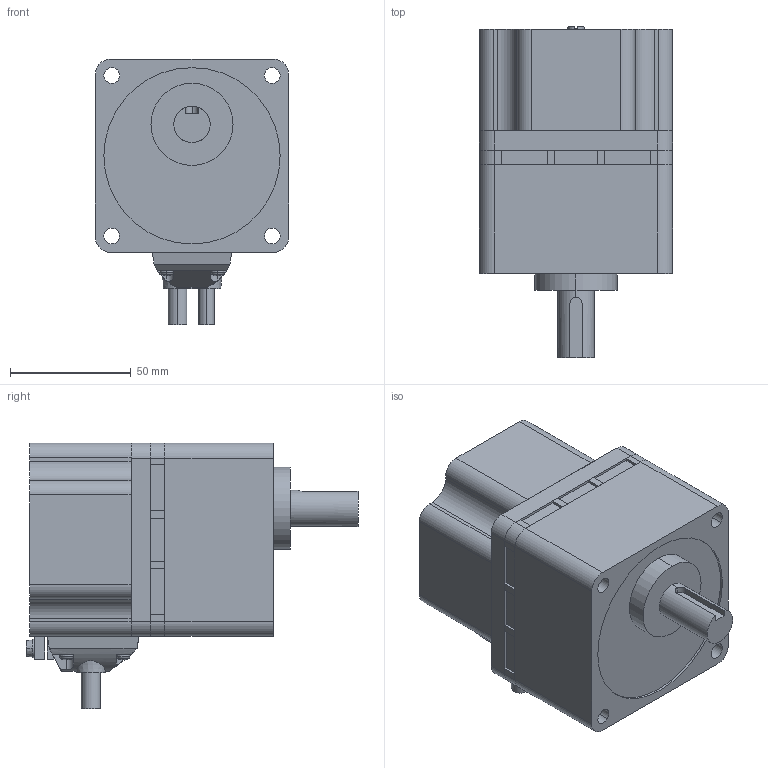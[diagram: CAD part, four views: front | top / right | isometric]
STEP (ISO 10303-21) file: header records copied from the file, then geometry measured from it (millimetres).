
FILE_DESCRIPTION(('starvars output'),'2;1');
FILE_NAME('BLF460S-200.stp','15:04:33 2015/05/11',( 'Thomas Industrial Network Germany GmbH'),( 'Thomas Industrial Network Germany GmbH'),'unknown preprocess','ACIS' ,'unknown authorization');
FILE_SCHEMA(('AUTOMOTIVE_DESIGN_CC2 {UNKNOWN IMPLEMENTATION LEVEL}'));
Length unit declared in the file: millimetre
Products named in the file (1): PRODUCT_ID_194
Bounding box: 80 x 137.5 x 110 mm (x, y, z)
Volume: 617116 mm3; surface area: 53102.7 mm2
Topology: 1 solids, 1 shells, 285 faces, 762 edges, 493 vertices
Faces by surface type: plane 189, cylinder 64, torus 12, cone 12, bspline 8
Entity records: 11003 total; most frequent: CARTESIAN_POINT 2023, ORIENTED_EDGE 1524, DIRECTION 1203, EDGE_CURVE 762, VERTEX_POINT 493, VECTOR 457, LINE 457, AXIS2_PLACEMENT_3D 373
